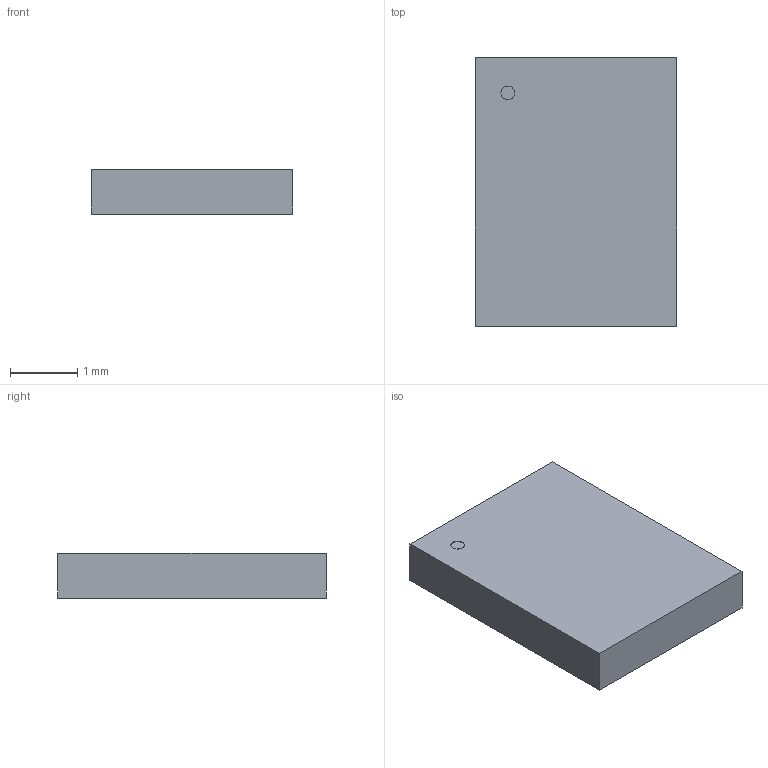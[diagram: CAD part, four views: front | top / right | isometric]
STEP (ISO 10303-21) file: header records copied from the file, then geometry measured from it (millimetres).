
FILE_DESCRIPTION (( 'STEP AP214' ), '1' );
FILE_NAME ('CR-26-2.STEP', '2023-04-18T07:58:26', ( '' ), ( '' ), 'SwSTEP 2.0', 'SolidWorks 2019', '' );
FILE_SCHEMA (( 'AUTOMOTIVE_DESIGN' ));
Length unit declared in the file: millimetre
Products named in the file (1): CR-26-2
Bounding box: 3 x 4 x 0.68 mm (x, y, z)
Volume: 8.1 mm3; surface area: 33.8 mm2
Topology: 1 solids, 1 shells, 156 faces, 372 edges, 248 vertices
Faces by surface type: plane 153, cylinder 3
Entity records: 4522 total; most frequent: CARTESIAN_POINT 777, ORIENTED_EDGE 744, DIRECTION 692, EDGE_CURVE 372, LINE 366, VECTOR 366, VERTEX_POINT 248, EDGE_LOOP 186
